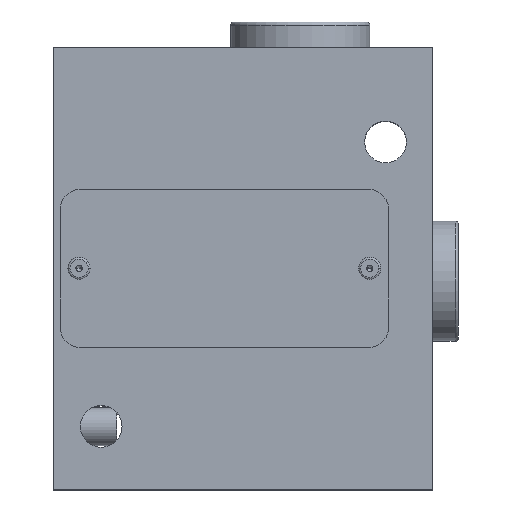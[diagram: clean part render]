
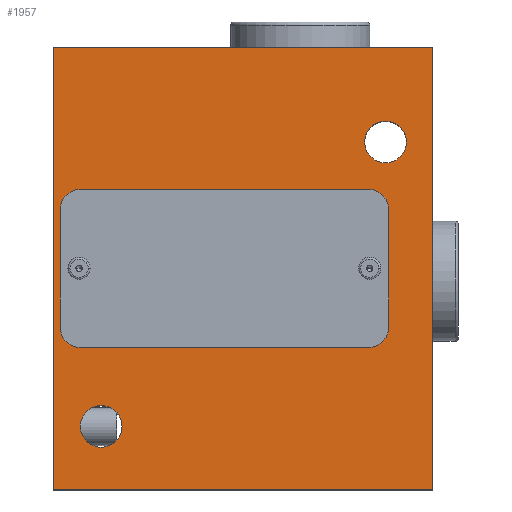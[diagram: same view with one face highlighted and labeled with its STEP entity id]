
A CAD part, top view. The second image highlights one B-rep face of the part: STEP entity #1957.
In plain terms, the highlighted planar face has unit normal (0, 0, 1).
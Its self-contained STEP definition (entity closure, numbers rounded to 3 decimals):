
#61=DIRECTION('',(0.,-1.,0.));
#62=VECTOR('',#61,70.);
#63=CARTESIAN_POINT('',(0.,70.,0.));
#64=LINE('',#63,#62);
#95=DIRECTION('',(1.,0.,0.));
#96=VECTOR('',#95,60.);
#97=CARTESIAN_POINT('',(0.,0.,0.));
#98=LINE('',#97,#96);
#109=DIRECTION('',(1.,0.,0.));
#110=VECTOR('',#109,60.);
#111=CARTESIAN_POINT('',(0.,70.,0.));
#112=LINE('',#111,#110);
#113=CARTESIAN_POINT('',(7.5,10.,0.));
#114=DIRECTION('',(0.,0.,-1.));
#115=DIRECTION('',(-1.,0.,0.));
#116=AXIS2_PLACEMENT_3D('',#113,#114,#115);
#118=CARTESIAN_POINT('',(7.5,10.,0.));
#119=DIRECTION('',(0.,0.,-1.));
#120=DIRECTION('',(1.,0.,0.));
#121=AXIS2_PLACEMENT_3D('',#118,#119,#120);
#123=CARTESIAN_POINT('',(52.5,55.,0.));
#124=DIRECTION('',(0.,0.,-1.));
#125=DIRECTION('',(-1.,0.,0.));
#126=AXIS2_PLACEMENT_3D('',#123,#124,#125);
#128=CARTESIAN_POINT('',(52.5,55.,0.));
#129=DIRECTION('',(0.,0.,-1.));
#130=DIRECTION('',(1.,0.,0.));
#131=AXIS2_PLACEMENT_3D('',#128,#129,#130);
#133=CARTESIAN_POINT('',(4.,35.,0.));
#134=DIRECTION('',(0.,0.,1.));
#135=DIRECTION('',(-1.,0.,0.));
#136=AXIS2_PLACEMENT_3D('',#133,#134,#135);
#138=CARTESIAN_POINT('',(4.,35.,0.));
#139=DIRECTION('',(0.,0.,1.));
#140=DIRECTION('',(1.,0.,0.));
#141=AXIS2_PLACEMENT_3D('',#138,#139,#140);
#143=CARTESIAN_POINT('',(50.,35.,0.));
#144=DIRECTION('',(0.,0.,1.));
#145=DIRECTION('',(-1.,0.,0.));
#146=AXIS2_PLACEMENT_3D('',#143,#144,#145);
#148=CARTESIAN_POINT('',(50.,35.,0.));
#149=DIRECTION('',(0.,0.,1.));
#150=DIRECTION('',(1.,0.,0.));
#151=AXIS2_PLACEMENT_3D('',#148,#149,#150);
#205=DIRECTION('',(0.,-1.,0.));
#206=VECTOR('',#205,70.);
#207=CARTESIAN_POINT('',(60.,70.,0.));
#208=LINE('',#207,#206);
#1635=CARTESIAN_POINT('',(0.,0.,0.));
#1637=VERTEX_POINT('',#1635);
#1641=CARTESIAN_POINT('',(0.,70.,0.));
#1642=VERTEX_POINT('',#1641);
#1643=CARTESIAN_POINT('',(60.,0.,0.));
#1645=VERTEX_POINT('',#1643);
#1649=CARTESIAN_POINT('',(60.,70.,0.));
#1650=VERTEX_POINT('',#1649);
#1721=CARTESIAN_POINT('',(4.2,10.,0.));
#1722=CARTESIAN_POINT('',(10.8,10.,0.));
#1723=VERTEX_POINT('',#1721);
#1724=VERTEX_POINT('',#1722);
#1737=CARTESIAN_POINT('',(49.2,55.,0.));
#1738=CARTESIAN_POINT('',(55.8,55.,0.));
#1739=VERTEX_POINT('',#1737);
#1740=VERTEX_POINT('',#1738);
#1747=CARTESIAN_POINT('',(3.,35.,0.));
#1748=CARTESIAN_POINT('',(5.,35.,0.));
#1749=VERTEX_POINT('',#1747);
#1750=VERTEX_POINT('',#1748);
#1757=CARTESIAN_POINT('',(49.,35.,0.));
#1758=CARTESIAN_POINT('',(51.,35.,0.));
#1759=VERTEX_POINT('',#1757);
#1760=VERTEX_POINT('',#1758);
#1920=CARTESIAN_POINT('',(0.,70.,0.));
#1921=DIRECTION('',(0.,0.,1.));
#1922=DIRECTION('',(0.,-1.,0.));
#1923=AXIS2_PLACEMENT_3D('',#1920,#1921,#1922);
#1924=PLANE('',#1923);
#1925=ORIENTED_EDGE('',*,*,#1862,.F.);
#1927=ORIENTED_EDGE('',*,*,#1926,.T.);
#1929=ORIENTED_EDGE('',*,*,#1928,.T.);
#1930=ORIENTED_EDGE('',*,*,#1898,.F.);
#1931=EDGE_LOOP('',(#1925,#1927,#1929,#1930));
#1932=FACE_OUTER_BOUND('',#1931,.F.);
#1934=ORIENTED_EDGE('',*,*,#1933,.F.);
#1936=ORIENTED_EDGE('',*,*,#1935,.F.);
#1937=EDGE_LOOP('',(#1934,#1936));
#1938=FACE_BOUND('',#1937,.F.);
#1940=ORIENTED_EDGE('',*,*,#1939,.F.);
#1942=ORIENTED_EDGE('',*,*,#1941,.F.);
#1943=EDGE_LOOP('',(#1940,#1942));
#1944=FACE_BOUND('',#1943,.F.);
#1946=ORIENTED_EDGE('',*,*,#1945,.T.);
#1948=ORIENTED_EDGE('',*,*,#1947,.T.);
#1949=EDGE_LOOP('',(#1946,#1948));
#1950=FACE_BOUND('',#1949,.F.);
#1952=ORIENTED_EDGE('',*,*,#1951,.T.);
#1954=ORIENTED_EDGE('',*,*,#1953,.T.);
#1955=EDGE_LOOP('',(#1952,#1954));
#1956=FACE_BOUND('',#1955,.F.);
#117=CIRCLE('',#116,3.3);
#122=CIRCLE('',#121,3.3);
#127=CIRCLE('',#126,3.3);
#132=CIRCLE('',#131,3.3);
#137=CIRCLE('',#136,1.);
#142=CIRCLE('',#141,1.);
#147=CIRCLE('',#146,1.);
#152=CIRCLE('',#151,1.);
#1862=EDGE_CURVE('',#1642,#1637,#64,.T.);
#1898=EDGE_CURVE('',#1637,#1645,#98,.T.);
#1926=EDGE_CURVE('',#1642,#1650,#112,.T.);
#1928=EDGE_CURVE('',#1650,#1645,#208,.T.);
#1933=EDGE_CURVE('',#1723,#1724,#117,.T.);
#1935=EDGE_CURVE('',#1724,#1723,#122,.T.);
#1939=EDGE_CURVE('',#1739,#1740,#127,.T.);
#1941=EDGE_CURVE('',#1740,#1739,#132,.T.);
#1945=EDGE_CURVE('',#1749,#1750,#137,.T.);
#1947=EDGE_CURVE('',#1750,#1749,#142,.T.);
#1951=EDGE_CURVE('',#1759,#1760,#147,.T.);
#1953=EDGE_CURVE('',#1760,#1759,#152,.T.);
#1957=ADVANCED_FACE('',(#1932,#1938,#1944,#1950,#1956),#1924,.T.);
